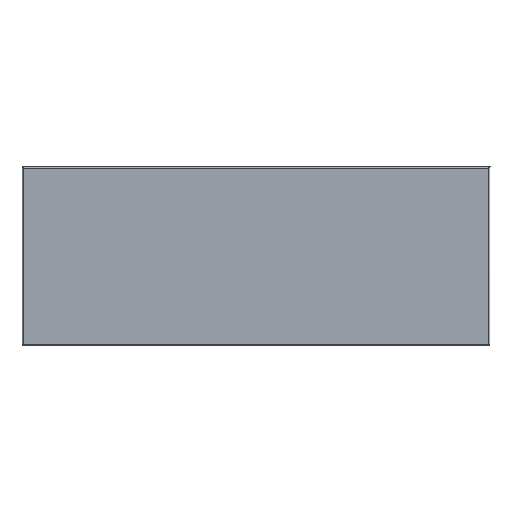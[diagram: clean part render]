
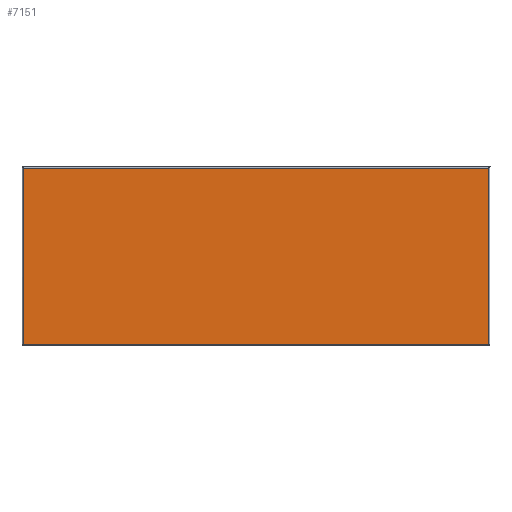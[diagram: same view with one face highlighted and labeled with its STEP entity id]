
A CAD part, top view. The second image highlights one B-rep face of the part: STEP entity #7151.
In plain terms, the highlighted planar face has unit normal (0, 0, 1).
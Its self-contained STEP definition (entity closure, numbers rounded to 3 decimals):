
#501 = LINE ( 'NONE', #3731, #3345 ) ;
#704 = ORIENTED_EDGE ( 'NONE', *, *, #15892, .T. ) ;
#762 = DIRECTION ( 'NONE',  ( 0., 0., -1. ) ) ;
#2722 = EDGE_LOOP ( 'NONE', ( #704, #3571, #12616, #16885 ) ) ;
#3345 = VECTOR ( 'NONE', #7436, 1000. ) ;
#3411 = DIRECTION ( 'NONE',  ( -1., 0., 0. ) ) ;
#3571 = ORIENTED_EDGE ( 'NONE', *, *, #18963, .T. ) ;
#3731 = CARTESIAN_POINT ( 'NONE',  ( 229.61, 0., 15. ) ) ;
#5782 = CARTESIAN_POINT ( 'NONE',  ( 0., 0., 15. ) ) ;
#6150 = EDGE_CURVE ( 'NONE', #17852, #17062, #501, .T. ) ;
#7037 = VECTOR ( 'NONE', #19733, 1000. ) ;
#7151 = ADVANCED_FACE ( 'NONE', ( #16522 ), #7465, .F. ) ;
#7436 = DIRECTION ( 'NONE',  ( 0., 1., 0. ) ) ;
#7465 = PLANE ( 'NONE',  #7893 ) ;
#7819 = DIRECTION ( 'NONE',  ( -1., 0., 0. ) ) ;
#7893 = AXIS2_PLACEMENT_3D ( 'NONE', #5782, #762, #7819 ) ;
#9127 = CARTESIAN_POINT ( 'NONE',  ( 229.61, -607.11, 15. ) ) ;
#10338 = CARTESIAN_POINT ( 'NONE',  ( 0., 607.11, 15. ) ) ;
#11042 = LINE ( 'NONE', #20222, #14884 ) ;
#11275 = DIRECTION ( 'NONE',  ( 0., -1., 0. ) ) ;
#12616 = ORIENTED_EDGE ( 'NONE', *, *, #6150, .T. ) ;
#13846 = VERTEX_POINT ( 'NONE', #16881 ) ;
#14153 = LINE ( 'NONE', #10338, #22676 ) ;
#14884 = VECTOR ( 'NONE', #11275, 1000. ) ;
#15892 = EDGE_CURVE ( 'NONE', #13846, #19487, #11042, .T. ) ;
#16522 = FACE_OUTER_BOUND ( 'NONE', #2722, .T. ) ;
#16881 = CARTESIAN_POINT ( 'NONE',  ( -229.61, 607.11, 15. ) ) ;
#16885 = ORIENTED_EDGE ( 'NONE', *, *, #21302, .T. ) ;
#17062 = VERTEX_POINT ( 'NONE', #19893 ) ;
#17341 = CARTESIAN_POINT ( 'NONE',  ( 0., -607.11, 15. ) ) ;
#17798 = CARTESIAN_POINT ( 'NONE',  ( -229.61, -607.11, 15. ) ) ;
#17852 = VERTEX_POINT ( 'NONE', #9127 ) ;
#18963 = EDGE_CURVE ( 'NONE', #19487, #17852, #22827, .T. ) ;
#19487 = VERTEX_POINT ( 'NONE', #17798 ) ;
#19733 = DIRECTION ( 'NONE',  ( 1., 0., 0. ) ) ;
#19893 = CARTESIAN_POINT ( 'NONE',  ( 229.61, 607.11, 15. ) ) ;
#20222 = CARTESIAN_POINT ( 'NONE',  ( -229.61, 0., 15. ) ) ;
#21302 = EDGE_CURVE ( 'NONE', #17062, #13846, #14153, .T. ) ;
#22676 = VECTOR ( 'NONE', #3411, 1000. ) ;
#22827 = LINE ( 'NONE', #17341, #7037 ) ;
